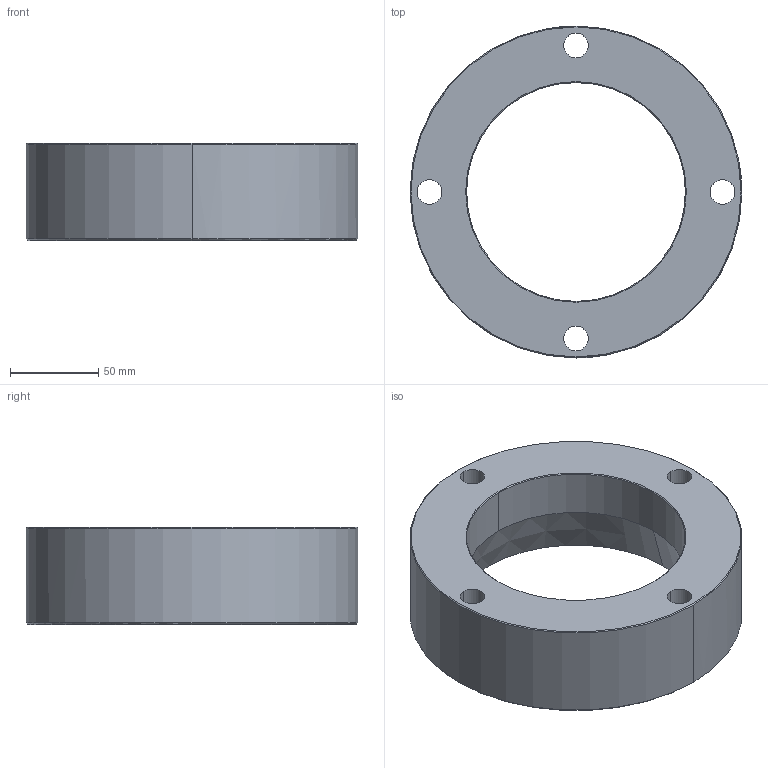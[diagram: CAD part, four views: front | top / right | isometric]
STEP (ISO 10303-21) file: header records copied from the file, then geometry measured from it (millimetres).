
FILE_DESCRIPTION((''),'2;1');
FILE_NAME('','2010-08-30T17:27:37+09:00',('misumi'),(''),'M/STEP i/f 1R2-14','CADmeister v5.1','');
FILE_SCHEMA(('AUTOMOTIVE_DESIGN'));
Length unit declared in the file: millimetre
Products named in the file (1): HKD100-55-R
Bounding box: 188 x 188 x 55 mm (x, y, z)
Volume: 776089.8 mm3; surface area: 92184.9 mm2
Topology: 1 solids, 1 shells, 38 faces, 93 edges, 57 vertices
Faces by surface type: cylinder 20, cone 7, plane 6, bspline 5
Entity records: 2603 total; most frequent: CARTESIAN_POINT 1599, DIRECTION 200, ORIENTED_EDGE 186, EDGE_CURVE 93, AXIS2_PLACEMENT_3D 87, VERTEX_POINT 57, CIRCLE 53, EDGE_LOOP 48
